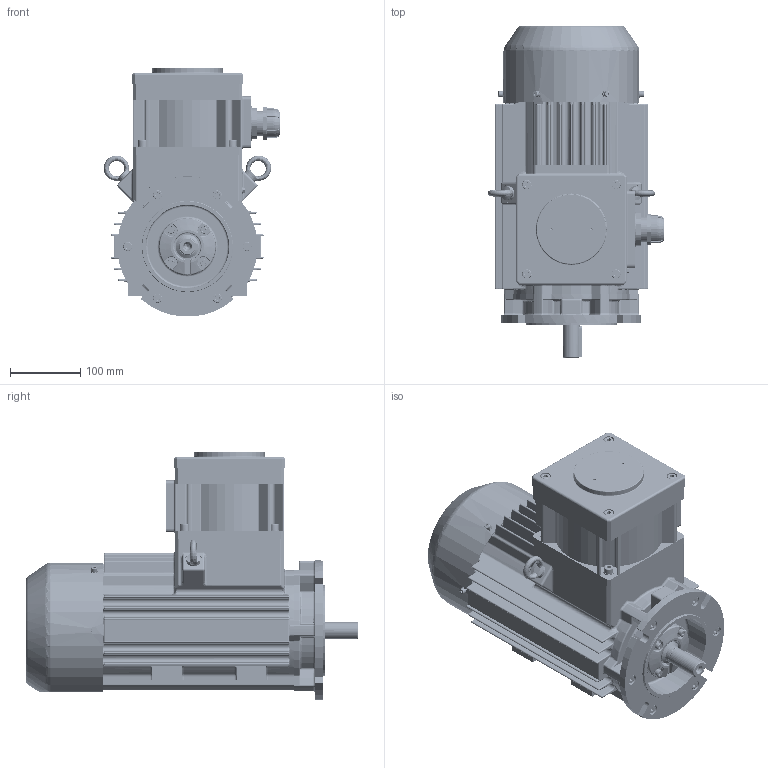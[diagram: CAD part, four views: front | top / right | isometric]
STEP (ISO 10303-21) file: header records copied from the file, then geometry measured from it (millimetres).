
FILE_DESCRIPTION(/* description */ ('Unknown'),/* implementation_level */ '2;1');
FILE_NAME(/* name */ 'Silnik cSTKe 90 - OUTSIDE !',/* time_stamp */ '2021-12-31T11:31:24+01:00',/* author */ ('Unknown'),/* organization */ ('Unknown'),/* preprocessor_version */ 'ST-DEVELOPER v16.7',/* originating_system */ 'DEX',/* authorisation */ $);
FILE_SCHEMA (('TECHNICAL_DATA_PACKAGING','AUTOMOTIVE_DESIGN {1 0 10303 214 3 1 1}'));
Products named in the file (1): Silnik   cSTKe 90   -  OUTSIDE !
Bounding box: 251.6 x 473 x 354.68 mm (x, y, z)
Volume: 5623959.5 mm3; surface area: 1211289.6 mm2
Topology: 1 solids, 36 shells, 4768 faces, 12771 edges, 8030 vertices
Faces by surface type: cylinder 1772, plane 1724, torus 515, cone 371, bspline 295, sphere 91
Full cylindrical faces by diameter (mm): 2 x4, 3.2 x4, 4 x1, 4.019 x4, 4.134 x3, 4.48 x1, 4.773 x8, 4.917 x7, 5 x13, 5.3 x5, 6 x22, 6.466 x16, 6.5 x8, 6.647 x17, 6.88 x1, 8 x38, 8.376 x3, 8.4 x1, 8.5 x4, 9 x16, 10 x13, 11 x4, 13 x20, 15 x17, 22.376 x1, 23.376 x1, 23.6 x1, 23.8 x1, 24 x5, 24.8 x2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
Entity records: 192299 total; most frequent: CARTESIAN_POINT 44584, DIRECTION 23682, ORIENTED_EDGE 23624, EDGE_CURVE 11812, AXIS2_PLACEMENT_3D 9165, VERTEX_POINT 7758, FACE_BOUND 5848, EDGE_LOOP 5809
